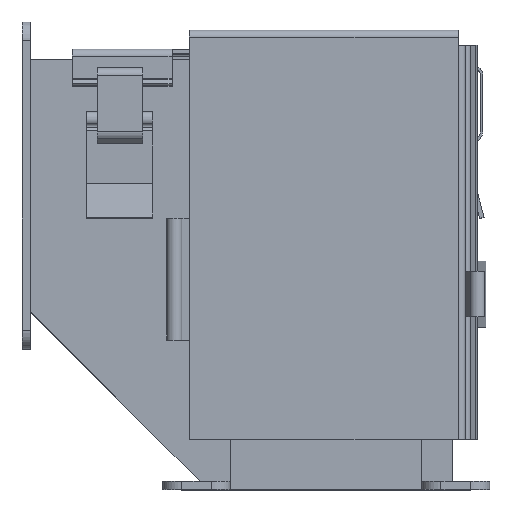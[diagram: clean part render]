
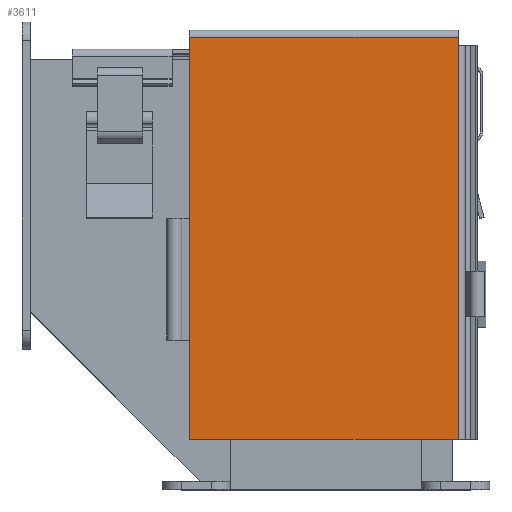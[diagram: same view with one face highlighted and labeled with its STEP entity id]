
A CAD part, top view. The second image highlights one B-rep face of the part: STEP entity #3611.
In plain terms, the highlighted planar face has unit normal (0, 0, 1).
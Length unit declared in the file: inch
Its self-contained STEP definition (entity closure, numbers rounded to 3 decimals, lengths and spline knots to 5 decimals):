
#569 = EDGE_LOOP ( 'NONE', ( #1243, #1244, #5683, #5684, #5685 ) ) ;
#1243 = ORIENTED_EDGE ( 'NONE', *, *, #1554, .T. ) ;
#1244 = ORIENTED_EDGE ( 'NONE', *, *, #1532, .T. ) ;
#1532 = EDGE_CURVE ( 'NONE', #4551, #4542, #6289, .T. ) ;
#1542 = EDGE_CURVE ( 'NONE', #4539, #4540, #6507, .T. ) ;
#1543 = EDGE_CURVE ( 'NONE', #4541, #4542, #6274, .T. ) ;
#1553 = EDGE_CURVE ( 'NONE', #4541, #4539, #6262, .T. ) ;
#1554 = EDGE_CURVE ( 'NONE', #4540, #4551, #6254, .T. ) ;
#1722 = AXIS2_PLACEMENT_3D ( 'NONE', #6989, #6982, #6980 ) ;
#2605 = CARTESIAN_POINT ( 'NONE',  ( -2.2495, -4.1755, 2.2114 ) ) ;
#2609 = CARTESIAN_POINT ( 'NONE',  ( 2.1735, -4.1755, 2.2114 ) ) ;
#2610 = CARTESIAN_POINT ( 'NONE',  ( -2.2495, 2.4425, 2.2114 ) ) ;
#2612 = CARTESIAN_POINT ( 'NONE',  ( 2.1735, 2.4425, 2.2114 ) ) ;
#2666 = CARTESIAN_POINT ( 'NONE',  ( 2.1735, 2.3085, 2.2114 ) ) ;
#3611 = ADVANCED_FACE ( 'NONE', ( #6047 ), #6985, .T. ) ;
#4539 = VERTEX_POINT ( 'NONE', #2605 ) ;
#4540 = VERTEX_POINT ( 'NONE', #2609 ) ;
#4541 = VERTEX_POINT ( 'NONE', #2610 ) ;
#4542 = VERTEX_POINT ( 'NONE', #2612 ) ;
#4551 = VERTEX_POINT ( 'NONE', #2666 ) ;
#5105 = DIRECTION ( 'NONE',  ( 0., 1., 0. ) ) ;
#5106 = CARTESIAN_POINT ( 'NONE',  ( 2.1735, -4.1755, 2.2114 ) ) ;
#5107 = DIRECTION ( 'NONE',  ( 0., -1., 0. ) ) ;
#5111 = CARTESIAN_POINT ( 'NONE',  ( -2.2495, -4.1755, 2.2114 ) ) ;
#5131 = DIRECTION ( 'NONE',  ( 1., 0., 0. ) ) ;
#5132 = CARTESIAN_POINT ( 'NONE',  ( -2.2495, 2.4425, 2.2114 ) ) ;
#5134 = DIRECTION ( 'NONE',  ( 1., 0., 0. ) ) ;
#5140 = CARTESIAN_POINT ( 'NONE',  ( -2.0747, -4.1755, 2.2114 ) ) ;
#5155 = DIRECTION ( 'NONE',  ( 0., 1., 0. ) ) ;
#5158 = CARTESIAN_POINT ( 'NONE',  ( 2.1735, -4.1755, 2.2114 ) ) ;
#5683 = ORIENTED_EDGE ( 'NONE', *, *, #1543, .F. ) ;
#5684 = ORIENTED_EDGE ( 'NONE', *, *, #1553, .T. ) ;
#5685 = ORIENTED_EDGE ( 'NONE', *, *, #1542, .T. ) ;
#6047 = FACE_OUTER_BOUND ( 'NONE', #569, .T. ) ;
#6253 = VECTOR ( 'NONE', #5105, 39.37008 ) ;
#6254 = LINE ( 'NONE', #5106, #6253 ) ;
#6256 = VECTOR ( 'NONE', #5107, 39.37008 ) ;
#6262 = LINE ( 'NONE', #5111, #6256 ) ;
#6273 = VECTOR ( 'NONE', #5131, 39.37008 ) ;
#6274 = LINE ( 'NONE', #5132, #6273 ) ;
#6280 = VECTOR ( 'NONE', #5155, 39.37008 ) ;
#6289 = LINE ( 'NONE', #5158, #6280 ) ;
#6408 = VECTOR ( 'NONE', #5134, 39.37008 ) ;
#6507 = LINE ( 'NONE', #5140, #6408 ) ;
#6980 = DIRECTION ( 'NONE',  ( 1., 0., 0. ) ) ;
#6982 = DIRECTION ( 'NONE',  ( 0., 0., 1. ) ) ;
#6985 = PLANE ( 'NONE',  #1722 ) ;
#6989 = CARTESIAN_POINT ( 'NONE',  ( -2.2495, -4.1755, 2.2114 ) ) ;
